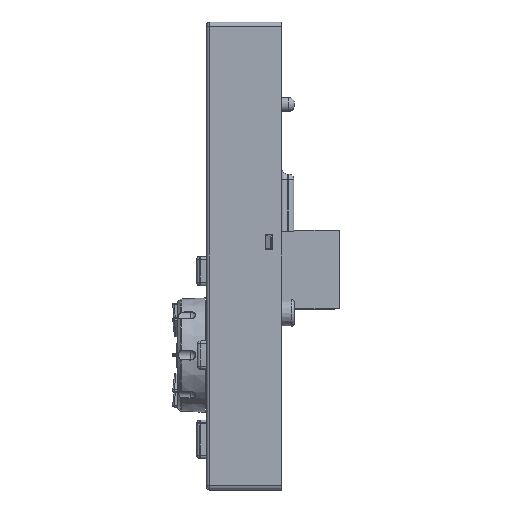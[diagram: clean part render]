
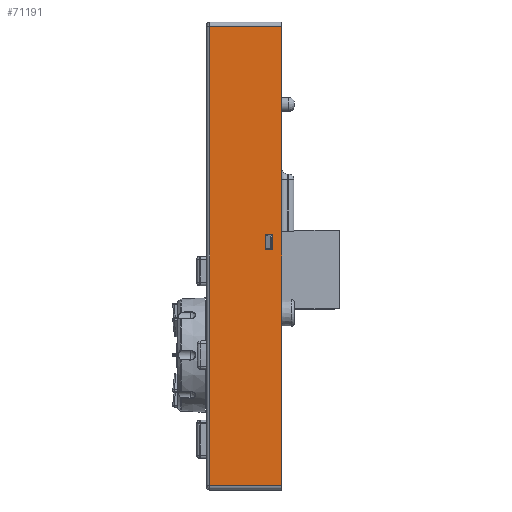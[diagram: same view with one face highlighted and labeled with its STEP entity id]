
A CAD part, left-side view. The second image highlights one B-rep face of the part: STEP entity #71191.
In plain terms, the highlighted planar face has unit normal (-1, 0, 0).
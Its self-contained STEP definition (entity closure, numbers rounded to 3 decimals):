
#2003=FACE_BOUND('',#15405,.T.);
#11448=FACE_OUTER_BOUND('',#15404,.T.);
#15404=EDGE_LOOP('',(#58824,#58825,#58826,#58827));
#15405=EDGE_LOOP('',(#58828,#58829,#58830,#58831));
#20460=LINE('',#133847,#27021);
#20561=LINE('',#134346,#27122);
#20562=LINE('',#134349,#27123);
#20563=LINE('',#134350,#27124);
#20564=LINE('',#134353,#27125);
#20565=LINE('',#134355,#27126);
#20566=LINE('',#134357,#27127);
#20567=LINE('',#134358,#27128);
#27021=VECTOR('',#88473,98.);
#27122=VECTOR('',#88660,15.4);
#27123=VECTOR('',#88663,98.);
#27124=VECTOR('',#88664,15.4);
#27125=VECTOR('',#88665,1.5);
#27126=VECTOR('',#88666,3.275);
#27127=VECTOR('',#88667,1.5);
#27128=VECTOR('',#88668,3.275);
#33967=VERTEX_POINT('',#133844);
#33968=VERTEX_POINT('',#133846);
#34093=VERTEX_POINT('',#134344);
#34094=VERTEX_POINT('',#134348);
#34095=VERTEX_POINT('',#134351);
#34096=VERTEX_POINT('',#134352);
#34097=VERTEX_POINT('',#134354);
#34098=VERTEX_POINT('',#134356);
#42613=EDGE_CURVE('',#33968,#33967,#20460,.T.);
#42762=EDGE_CURVE('',#34093,#33967,#20561,.T.);
#42763=EDGE_CURVE('',#34093,#34094,#20562,.T.);
#42764=EDGE_CURVE('',#34094,#33968,#20563,.T.);
#42765=EDGE_CURVE('',#34095,#34096,#20564,.T.);
#42766=EDGE_CURVE('',#34097,#34095,#20565,.T.);
#42767=EDGE_CURVE('',#34098,#34097,#20566,.T.);
#42768=EDGE_CURVE('',#34096,#34098,#20567,.T.);
#58824=ORIENTED_EDGE('',*,*,#42763,.T.);
#58825=ORIENTED_EDGE('',*,*,#42764,.T.);
#58826=ORIENTED_EDGE('',*,*,#42613,.T.);
#58827=ORIENTED_EDGE('',*,*,#42762,.F.);
#58828=ORIENTED_EDGE('',*,*,#42765,.F.);
#58829=ORIENTED_EDGE('',*,*,#42766,.F.);
#58830=ORIENTED_EDGE('',*,*,#42767,.F.);
#58831=ORIENTED_EDGE('',*,*,#42768,.F.);
#67854=PLANE('',#76364);
#71191=ADVANCED_FACE('',(#11448,#2003),#67854,.T.);
#76364=AXIS2_PLACEMENT_3D('',#134347,#88661,#88662);
#88473=DIRECTION('',(0.,0.,1.));
#88660=DIRECTION('',(0.,-1.,0.));
#88661=DIRECTION('center_axis',(-1.,0.,0.));
#88662=DIRECTION('ref_axis',(0.,0.,1.));
#88663=DIRECTION('',(0.,0.,-1.));
#88664=DIRECTION('',(0.,-1.,0.));
#88665=DIRECTION('',(0.,1.,0.));
#88666=DIRECTION('',(0.,0.,1.));
#88667=DIRECTION('',(0.,-1.,0.));
#88668=DIRECTION('',(0.,0.,-1.));
#133844=CARTESIAN_POINT('',(-89.,294.7,202.));
#133846=CARTESIAN_POINT('',(-89.,294.7,104.));
#133847=CARTESIAN_POINT('',(-89.,294.7,104.));
#134344=CARTESIAN_POINT('',(-89.,310.1,202.));
#134346=CARTESIAN_POINT('',(-89.,310.1,202.));
#134347=CARTESIAN_POINT('Origin',(-89.,310.7,103.));
#134348=CARTESIAN_POINT('',(-89.,310.1,104.));
#134349=CARTESIAN_POINT('',(-89.,310.1,202.));
#134350=CARTESIAN_POINT('',(-89.,310.1,104.));
#134351=CARTESIAN_POINT('',(-89.,296.7,157.7));
#134352=CARTESIAN_POINT('',(-89.,298.2,157.7));
#134353=CARTESIAN_POINT('',(-89.,296.7,157.7));
#134354=CARTESIAN_POINT('',(-89.,296.7,154.425));
#134355=CARTESIAN_POINT('',(-89.,296.7,154.425));
#134356=CARTESIAN_POINT('',(-89.,298.2,154.425));
#134357=CARTESIAN_POINT('',(-89.,298.2,154.425));
#134358=CARTESIAN_POINT('',(-89.,298.2,157.7));
